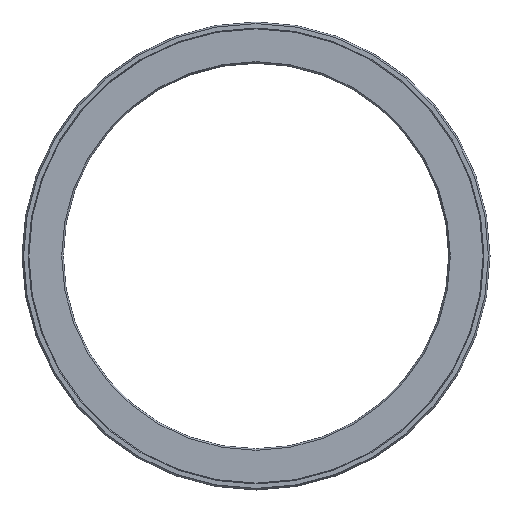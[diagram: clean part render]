
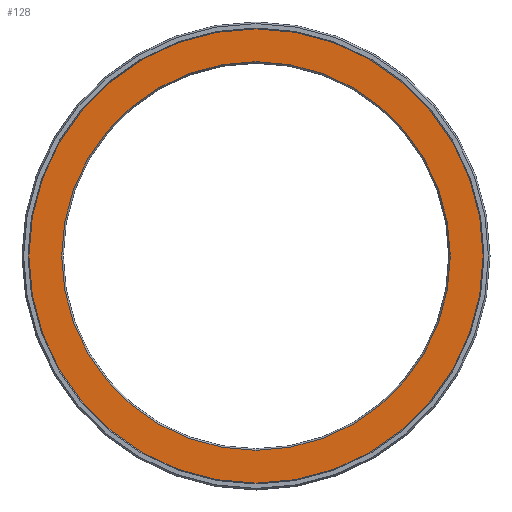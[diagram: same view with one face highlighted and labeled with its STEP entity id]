
A CAD part, left-side view. The second image highlights one B-rep face of the part: STEP entity #128.
In plain terms, the highlighted planar face has unit normal (-1, 0, 0).
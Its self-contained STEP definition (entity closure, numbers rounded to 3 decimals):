
#112=PLANE('',#329);
#128=ADVANCED_FACE('',(#163,#164),#112,.T.);
#163=FACE_BOUND('',#199,.T.);
#164=FACE_BOUND('',#200,.T.);
#199=EDGE_LOOP('',(#235));
#200=EDGE_LOOP('',(#236));
#235=ORIENTED_EDGE('',*,*,#276,.T.);
#236=ORIENTED_EDGE('',*,*,#275,.F.);
#257=VERTEX_POINT('',#454);
#258=VERTEX_POINT('',#457);
#275=EDGE_CURVE('',#257,#257,#293,.T.);
#276=EDGE_CURVE('',#258,#258,#294,.T.);
#293=CIRCLE('',#326,82.5);
#294=CIRCLE('',#328,70.577);
#326=AXIS2_PLACEMENT_3D('',#453,#394,#395);
#328=AXIS2_PLACEMENT_3D('',#456,#398,#399);
#329=AXIS2_PLACEMENT_3D('',#458,#400,#401);
#394=DIRECTION('',(1.,0.,0.));
#395=DIRECTION('',(0.,0.,-1.));
#398=DIRECTION('',(1.,0.,0.));
#399=DIRECTION('',(0.,0.,1.));
#400=DIRECTION('',(-1.,0.,0.));
#401=DIRECTION('',(0.,0.,1.));
#453=CARTESIAN_POINT('',(0.,0.,0.));
#454=CARTESIAN_POINT('',(0.,0.,-82.5));
#456=CARTESIAN_POINT('',(0.,0.,0.));
#457=CARTESIAN_POINT('',(0.,0.,70.577));
#458=CARTESIAN_POINT('',(0.,82.5,0.));
